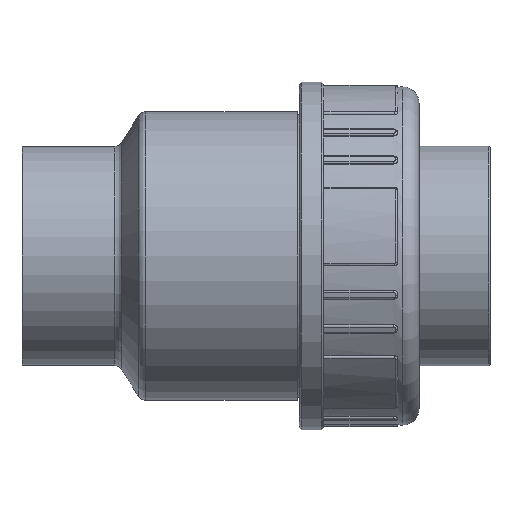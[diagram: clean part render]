
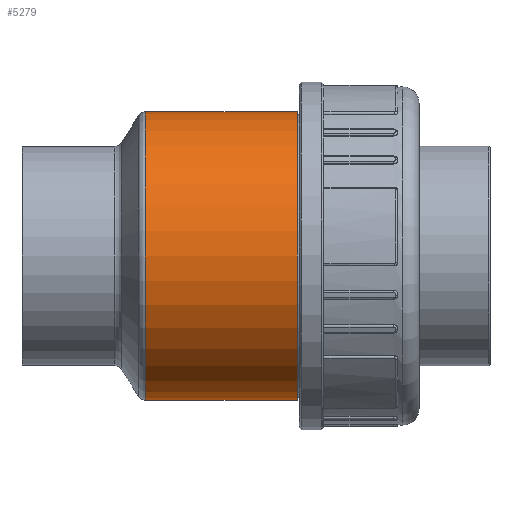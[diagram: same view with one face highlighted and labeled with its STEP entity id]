
A CAD part, left-side view. The second image highlights one B-rep face of the part: STEP entity #5279.
In plain terms, the highlighted cylindrical face has radius 69.75 mm (diameter 139.5 mm), a full revolution.
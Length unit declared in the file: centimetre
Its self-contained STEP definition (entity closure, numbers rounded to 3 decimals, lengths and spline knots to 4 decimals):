
#244=FACE_BOUND('',#1433,.T.);
#245=FACE_BOUND('',#1434,.T.);
#1090=FACE_OUTER_BOUND('',#1432,.T.);
#1432=EDGE_LOOP('',(#4460));
#1433=EDGE_LOOP('',(#4461));
#1434=EDGE_LOOP('',(#4462));
#1610=B_SPLINE_CURVE_WITH_KNOTS('',3,(#31035,#31036,#31037,#31038,#31039,
#31040,#31041,#31042,#31043,#31044,#31045,#31046,#31047,#31048,#31049,#31050,
#31051,#31052),.UNSPECIFIED.,.T.,.F.,(4,1,1,1,1,1,1,1,1,1,1,1,1,1,1,4),
(-13.3893,-12.4329,-11.4765,-10.5202,
-9.5638,-8.6074,-7.651,-7.0134,
-6.3759,-5.7383,-4.4631,-3.8255,
-2.8691,-1.9128,-0.9564,0.),
 .UNSPECIFIED.);
#1896=CIRCLE('',#5789,6.975);
#1897=CIRCLE('',#5791,6.975);
#2359=VERTEX_POINT('',#31029);
#2360=VERTEX_POINT('',#31032);
#2361=VERTEX_POINT('',#31034);
#3070=EDGE_CURVE('',#2359,#2359,#1896,.T.);
#3071=EDGE_CURVE('',#2360,#2360,#1897,.T.);
#3072=EDGE_CURVE('',#2361,#2361,#1610,.T.);
#4460=ORIENTED_EDGE('',*,*,#3071,.T.);
#4461=ORIENTED_EDGE('',*,*,#3072,.F.);
#4462=ORIENTED_EDGE('',*,*,#3070,.F.);
#4674=CYLINDRICAL_SURFACE('',#5790,6.975);
#5279=ADVANCED_FACE('',(#1090,#244,#245),#4674,.T.);
#5789=AXIS2_PLACEMENT_3D('',#31030,#7070,#7071);
#5790=AXIS2_PLACEMENT_3D('',#31031,#7072,#7073);
#5791=AXIS2_PLACEMENT_3D('',#31033,#7074,#7075);
#7070=DIRECTION('center_axis',(0.,1.,0.));
#7071=DIRECTION('ref_axis',(1.,0.,0.));
#7072=DIRECTION('center_axis',(0.,1.,0.));
#7073=DIRECTION('ref_axis',(-1.,0.,0.));
#7074=DIRECTION('center_axis',(0.,1.,0.));
#7075=DIRECTION('ref_axis',(1.,0.,0.));
#31029=CARTESIAN_POINT('',(-6.975,4.5587,0.));
#31030=CARTESIAN_POINT('Origin',(0.,4.5587,
0.));
#31031=CARTESIAN_POINT('Origin',(0.,0.995,
0.));
#31032=CARTESIAN_POINT('',(-6.975,-2.79,0.));
#31033=CARTESIAN_POINT('Origin',(0.,-2.79,0.));
#31034=CARTESIAN_POINT('',(6.6105,0.,2.2254));
#31035=CARTESIAN_POINT('Ctrl Pts',(6.6103,0.,
2.2256));
#31036=CARTESIAN_POINT('Ctrl Pts',(6.6103,-0.3362,
2.2256));
#31037=CARTESIAN_POINT('Ctrl Pts',(6.6654,-1.0087,2.0703));
#31038=CARTESIAN_POINT('Ctrl Pts',(6.8416,-1.8038,1.4367));
#31039=CARTESIAN_POINT('Ctrl Pts',(6.9804,-2.2534,0.5175));
#31040=CARTESIAN_POINT('Ctrl Pts',(6.9806,-2.2533,-0.5175));
#31041=CARTESIAN_POINT('Ctrl Pts',(6.8413,-1.804,-1.4367));
#31042=CARTESIAN_POINT('Ctrl Pts',(6.6853,-1.0966,-1.9996));
#31043=CARTESIAN_POINT('Ctrl Pts',(6.6078,-0.3408,
-2.2338));
#31044=CARTESIAN_POINT('Ctrl Pts',(6.6076,0.3407,-2.2336));
#31045=CARTESIAN_POINT('Ctrl Pts',(6.6968,1.205,-1.9669));
#31046=CARTESIAN_POINT('Ctrl Pts',(6.8651,1.8795,-1.3423));
#31047=CARTESIAN_POINT('Ctrl Pts',(6.9803,2.253,-0.4019));
#31048=CARTESIAN_POINT('Ctrl Pts',(6.9805,2.2535,0.5172));
#31049=CARTESIAN_POINT('Ctrl Pts',(6.8416,1.8037,1.4369));
#31050=CARTESIAN_POINT('Ctrl Pts',(6.6654,1.0087,2.0702));
#31051=CARTESIAN_POINT('Ctrl Pts',(6.6103,0.3362,2.2256));
#31052=CARTESIAN_POINT('Ctrl Pts',(6.6103,0.,
2.2256));
